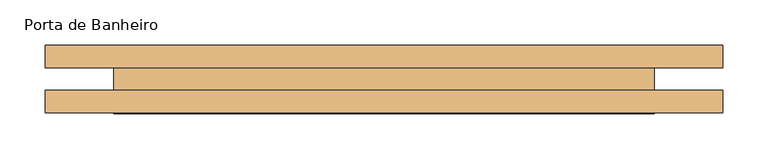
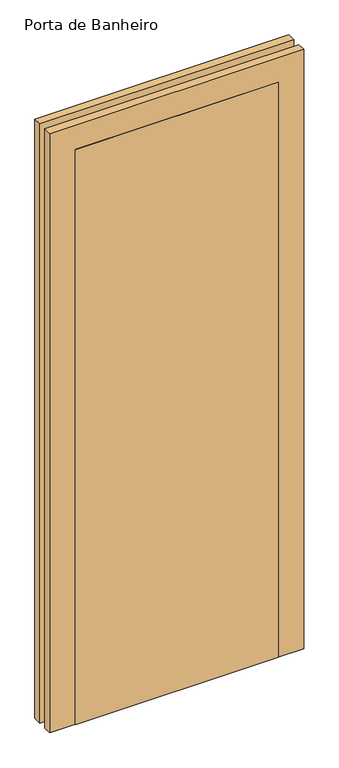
"""IFC4 building model written with IfcOpenShell, lengths in millimetres: door geometry, M_Folha única : Porta de Banheiro."""

from ifc_helpers import new_model, si_unit, frame, origin, origin_with_axes, place, context, project, spatial, polyline, outline, extrude, source, transform, mapped, element, save


def porta_de_banheiro_c374852d(model_context):
    return source(origin(), model_context, "Body", "SweptSolid", [
        extrude(outline(polyline([(1876.0, -376.0), (0.0, -376.0), (0.0, -300.0), (1800.0, -300.0), (1800.0, 300.0), (0.0, 300.0), (0.0, 376.0), (1876.0, 376.0), (1876.0, -376.0)])), frame((0.0, 12.5, 0.0), z_axis=(0.0, 1.0, 0.0), x_axis=(0.0, 0.0, 1.0)), (0.0, 0.0, 1.0), 25.0),
        extrude(outline(polyline([(1876.0, 376.0), (1876.0, -376.0), (0.0, -376.0), (0.0, -300.0), (1800.0, -300.0), (1800.0, 300.0), (0.0, 300.0), (0.0, 376.0), (1876.0, 376.0)])), frame((0.0, -37.5, 0.0), z_axis=(0.0, 1.0, 0.0), x_axis=(0.0, 0.0, 1.0)), (0.0, 0.0, 1.0), 25.0),
        extrude(outline(polyline([(300.0, -38.5), (-300.0, -38.5), (-300.0, 12.5), (300.0, 12.5), (300.0, -38.5)])), origin_with_axes(), (0.0, 0.0, 1.0), 1800.0),
    ])


if __name__ == "__main__":
    model = new_model("IFC4")
    model_context = context("Model", 3, world=origin())
    ifc_project = project(units=[si_unit("LENGTHUNIT", "METRE", prefix="MILLI")], contexts=[model_context])
    site = spatial("IfcSite", under=ifc_project)
    building = spatial("IfcBuilding", under=site)
    placement = place(None, origin())
    porta_de_banheiro_shape = porta_de_banheiro_c374852d(model_context)
    element("IfcDoor", 1, ObjectType="M_Folha única : Porta de Banheiro", at=placement, inside=building, context=model_context, shape_type="MappedRepresentation", body=[
        mapped(porta_de_banheiro_shape, transform((0.0, 0.0, 0.0), x_axis=(1.0, 0.0, 0.0), y_axis=(0.0, 1.0, 0.0), z_axis=(0.0, 0.0, 1.0))),
    ])
    save(model, "model.ifc")
